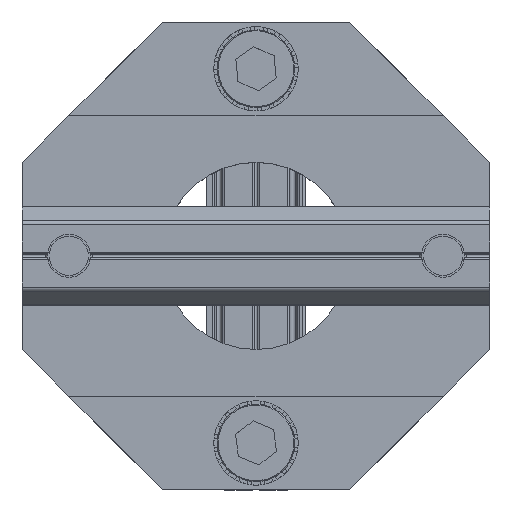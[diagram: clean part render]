
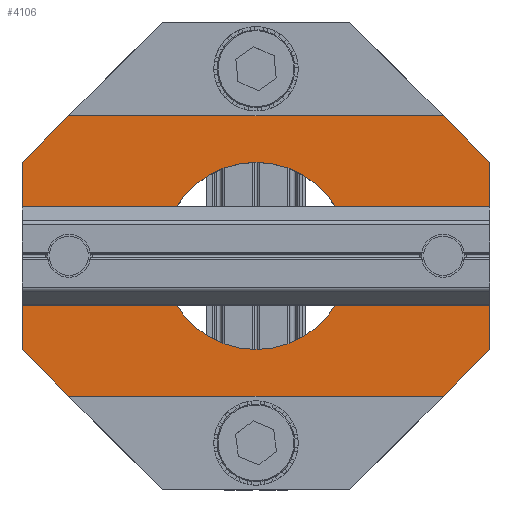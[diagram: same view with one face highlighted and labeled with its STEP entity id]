
A CAD part, top view. The second image highlights one B-rep face of the part: STEP entity #4106.
In plain terms, the highlighted planar face has unit normal (0, 0, 1).
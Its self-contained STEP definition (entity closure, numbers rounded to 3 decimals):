
#12 = CARTESIAN_POINT ( 'NONE',  ( 16.7, 0., 8. ) ) ;
#123 = EDGE_LOOP ( 'NONE', ( #2875, #8124, #5170, #4752, #2725, #2391, #1697, #3820 ) ) ;
#152 = VERTEX_POINT ( 'NONE', #9136 ) ;
#248 = CIRCLE ( 'NONE', #3699, 3.3 ) ;
#488 = CIRCLE ( 'NONE', #5608, 3.3 ) ;
#535 = CARTESIAN_POINT ( 'NONE',  ( -17.5, -17.5, 8. ) ) ;
#574 = VERTEX_POINT ( 'NONE', #8481 ) ;
#736 = DIRECTION ( 'NONE',  ( 1., 0., 0. ) ) ;
#741 = EDGE_CURVE ( 'NONE', #574, #3228, #5131, .T. ) ;
#864 = EDGE_CURVE ( 'NONE', #1365, #5988, #5479, .T. ) ;
#874 = EDGE_CURVE ( 'NONE', #5321, #9091, #4656, .T. ) ;
#928 = DIRECTION ( 'NONE',  ( -1., 0., 0. ) ) ;
#931 = VECTOR ( 'NONE', #7258, 1000. ) ;
#958 = AXIS2_PLACEMENT_3D ( 'NONE', #6954, #6324, #3271 ) ;
#991 = CARTESIAN_POINT ( 'NONE',  ( -20., -15., 8. ) ) ;
#999 = EDGE_LOOP ( 'NONE', ( #5224, #1343 ) ) ;
#1026 = EDGE_LOOP ( 'NONE', ( #4645, #7164 ) ) ;
#1052 = VECTOR ( 'NONE', #4234, 1000. ) ;
#1343 = ORIENTED_EDGE ( 'NONE', *, *, #2843, .F. ) ;
#1351 = CARTESIAN_POINT ( 'NONE',  ( 25., -15., 8. ) ) ;
#1352 = VERTEX_POINT ( 'NONE', #2666 ) ;
#1365 = VERTEX_POINT ( 'NONE', #4975 ) ;
#1472 = CARTESIAN_POINT ( 'NONE',  ( 25., -15., 8. ) ) ;
#1533 = CARTESIAN_POINT ( 'NONE',  ( -20., 0., 8. ) ) ;
#1559 = CARTESIAN_POINT ( 'NONE',  ( 20., 0., 8. ) ) ;
#1697 = ORIENTED_EDGE ( 'NONE', *, *, #5163, .T. ) ;
#1726 = EDGE_CURVE ( 'NONE', #8000, #5321, #8087, .T. ) ;
#1728 = VERTEX_POINT ( 'NONE', #991 ) ;
#1753 = EDGE_CURVE ( 'NONE', #3718, #8642, #5112, .T. ) ;
#1869 = CARTESIAN_POINT ( 'NONE',  ( 20., 0., 8. ) ) ;
#1986 = VECTOR ( 'NONE', #9506, 1000. ) ;
#2078 = VERTEX_POINT ( 'NONE', #9488 ) ;
#2098 = LINE ( 'NONE', #1472, #1986 ) ;
#2102 = LINE ( 'NONE', #2787, #7756 ) ;
#2170 = ORIENTED_EDGE ( 'NONE', *, *, #864, .F. ) ;
#2197 = CARTESIAN_POINT ( 'NONE',  ( 0., 0., 8. ) ) ;
#2335 = CIRCLE ( 'NONE', #958, 10. ) ;
#2391 = ORIENTED_EDGE ( 'NONE', *, *, #6070, .T. ) ;
#2430 = CARTESIAN_POINT ( 'NONE',  ( 25., 15., 8. ) ) ;
#2666 = CARTESIAN_POINT ( 'NONE',  ( -23.3, 0., 8. ) ) ;
#2667 = CARTESIAN_POINT ( 'NONE',  ( 20., -15., 8. ) ) ;
#2678 = FACE_BOUND ( 'NONE', #1026, .T. ) ;
#2690 = AXIS2_PLACEMENT_3D ( 'NONE', #5859, #7991, #8055 ) ;
#2725 = ORIENTED_EDGE ( 'NONE', *, *, #874, .T. ) ;
#2753 = EDGE_CURVE ( 'NONE', #152, #1728, #6057, .T. ) ;
#2787 = CARTESIAN_POINT ( 'NONE',  ( -25., -15., 8. ) ) ;
#2823 = DIRECTION ( 'NONE',  ( 0., -1., 0. ) ) ;
#2843 = EDGE_CURVE ( 'NONE', #3818, #1352, #248, .T. ) ;
#2875 = ORIENTED_EDGE ( 'NONE', *, *, #3994, .T. ) ;
#2943 = EDGE_CURVE ( 'NONE', #1728, #8000, #2098, .T. ) ;
#3055 = DIRECTION ( 'NONE',  ( 0., 0., 1. ) ) ;
#3199 = CARTESIAN_POINT ( 'NONE',  ( -16.7, 0., 8. ) ) ;
#3228 = VERTEX_POINT ( 'NONE', #4772 ) ;
#3247 = CARTESIAN_POINT ( 'NONE',  ( 25., -10., 8. ) ) ;
#3271 = DIRECTION ( 'NONE',  ( 1., 0., 0. ) ) ;
#3495 = CIRCLE ( 'NONE', #5212, 3.3 ) ;
#3649 = DIRECTION ( 'NONE',  ( 0., 1., 0. ) ) ;
#3688 = PLANE ( 'NONE',  #7713 ) ;
#3699 = AXIS2_PLACEMENT_3D ( 'NONE', #7857, #4200, #9343 ) ;
#3718 = VERTEX_POINT ( 'NONE', #12 ) ;
#3745 = DIRECTION ( 'NONE',  ( 0., 0., 1. ) ) ;
#3767 = EDGE_CURVE ( 'NONE', #5988, #1365, #2335, .T. ) ;
#3818 = VERTEX_POINT ( 'NONE', #3199 ) ;
#3820 = ORIENTED_EDGE ( 'NONE', *, *, #741, .T. ) ;
#3837 = FACE_BOUND ( 'NONE', #8510, .T. ) ;
#3994 = EDGE_CURVE ( 'NONE', #3228, #152, #2102, .T. ) ;
#4059 = FACE_OUTER_BOUND ( 'NONE', #123, .T. ) ;
#4106 = ADVANCED_FACE ( 'NONE', ( #3837, #2678, #6508, #4059 ), #3688, .T. ) ;
#4200 = DIRECTION ( 'NONE',  ( 0., 0., 1. ) ) ;
#4234 = DIRECTION ( 'NONE',  ( -0.707, -0.707, 0. ) ) ;
#4264 = EDGE_CURVE ( 'NONE', #1352, #3818, #3495, .T. ) ;
#4423 = DIRECTION ( 'NONE',  ( 1., 0., 0. ) ) ;
#4645 = ORIENTED_EDGE ( 'NONE', *, *, #1753, .F. ) ;
#4656 = LINE ( 'NONE', #1351, #6959 ) ;
#4752 = ORIENTED_EDGE ( 'NONE', *, *, #1726, .T. ) ;
#4772 = CARTESIAN_POINT ( 'NONE',  ( -25., 10., 8. ) ) ;
#4817 = CARTESIAN_POINT ( 'NONE',  ( 25., 10., 8. ) ) ;
#4975 = CARTESIAN_POINT ( 'NONE',  ( -10., 0., 8. ) ) ;
#5112 = CIRCLE ( 'NONE', #6967, 3.3 ) ;
#5131 = LINE ( 'NONE', #8538, #1052 ) ;
#5163 = EDGE_CURVE ( 'NONE', #2078, #574, #8821, .T. ) ;
#5170 = ORIENTED_EDGE ( 'NONE', *, *, #2943, .T. ) ;
#5185 = DIRECTION ( 'NONE',  ( 0., 0., 1. ) ) ;
#5212 = AXIS2_PLACEMENT_3D ( 'NONE', #1533, #3745, #4423 ) ;
#5224 = ORIENTED_EDGE ( 'NONE', *, *, #4264, .F. ) ;
#5321 = VERTEX_POINT ( 'NONE', #3247 ) ;
#5479 = CIRCLE ( 'NONE', #2690, 10. ) ;
#5608 = AXIS2_PLACEMENT_3D ( 'NONE', #1559, #3055, #8200 ) ;
#5859 = CARTESIAN_POINT ( 'NONE',  ( 0., 0., 8. ) ) ;
#5988 = VERTEX_POINT ( 'NONE', #6216 ) ;
#6057 = LINE ( 'NONE', #535, #931 ) ;
#6070 = EDGE_CURVE ( 'NONE', #9091, #2078, #8841, .T. ) ;
#6216 = CARTESIAN_POINT ( 'NONE',  ( 10., 0., 8. ) ) ;
#6324 = DIRECTION ( 'NONE',  ( 0., 0., 1. ) ) ;
#6507 = VECTOR ( 'NONE', #8355, 1000. ) ;
#6508 = FACE_BOUND ( 'NONE', #999, .T. ) ;
#6797 = VECTOR ( 'NONE', #9314, 1000. ) ;
#6954 = CARTESIAN_POINT ( 'NONE',  ( 0., 0., 8. ) ) ;
#6959 = VECTOR ( 'NONE', #3649, 1000. ) ;
#6967 = AXIS2_PLACEMENT_3D ( 'NONE', #1869, #9195, #7043 ) ;
#7043 = DIRECTION ( 'NONE',  ( 1., 0., 0. ) ) ;
#7164 = ORIENTED_EDGE ( 'NONE', *, *, #8374, .F. ) ;
#7210 = CARTESIAN_POINT ( 'NONE',  ( 23.3, 0., 8. ) ) ;
#7258 = DIRECTION ( 'NONE',  ( 0.707, -0.707, 0. ) ) ;
#7332 = CARTESIAN_POINT ( 'NONE',  ( 17.5, 17.5, 8. ) ) ;
#7540 = VECTOR ( 'NONE', #928, 1000. ) ;
#7584 = CARTESIAN_POINT ( 'NONE',  ( 17.5, -17.5, 8. ) ) ;
#7713 = AXIS2_PLACEMENT_3D ( 'NONE', #2197, #5185, #736 ) ;
#7756 = VECTOR ( 'NONE', #2823, 1000. ) ;
#7857 = CARTESIAN_POINT ( 'NONE',  ( -20., 0., 8. ) ) ;
#7991 = DIRECTION ( 'NONE',  ( 0., 0., 1. ) ) ;
#8000 = VERTEX_POINT ( 'NONE', #2667 ) ;
#8055 = DIRECTION ( 'NONE',  ( 1., 0., 0. ) ) ;
#8087 = LINE ( 'NONE', #7584, #6507 ) ;
#8124 = ORIENTED_EDGE ( 'NONE', *, *, #2753, .T. ) ;
#8200 = DIRECTION ( 'NONE',  ( 1., 0., 0. ) ) ;
#8355 = DIRECTION ( 'NONE',  ( 0.707, 0.707, 0. ) ) ;
#8374 = EDGE_CURVE ( 'NONE', #8642, #3718, #488, .T. ) ;
#8481 = CARTESIAN_POINT ( 'NONE',  ( -20., 15., 8. ) ) ;
#8507 = ORIENTED_EDGE ( 'NONE', *, *, #3767, .F. ) ;
#8510 = EDGE_LOOP ( 'NONE', ( #2170, #8507 ) ) ;
#8538 = CARTESIAN_POINT ( 'NONE',  ( -17.5, 17.5, 8. ) ) ;
#8642 = VERTEX_POINT ( 'NONE', #7210 ) ;
#8821 = LINE ( 'NONE', #2430, #7540 ) ;
#8841 = LINE ( 'NONE', #7332, #6797 ) ;
#9091 = VERTEX_POINT ( 'NONE', #4817 ) ;
#9136 = CARTESIAN_POINT ( 'NONE',  ( -25., -10., 8. ) ) ;
#9195 = DIRECTION ( 'NONE',  ( 0., 0., 1. ) ) ;
#9314 = DIRECTION ( 'NONE',  ( -0.707, 0.707, 0. ) ) ;
#9343 = DIRECTION ( 'NONE',  ( 1., 0., 0. ) ) ;
#9488 = CARTESIAN_POINT ( 'NONE',  ( 20., 15., 8. ) ) ;
#9506 = DIRECTION ( 'NONE',  ( 1., 0., 0. ) ) ;
